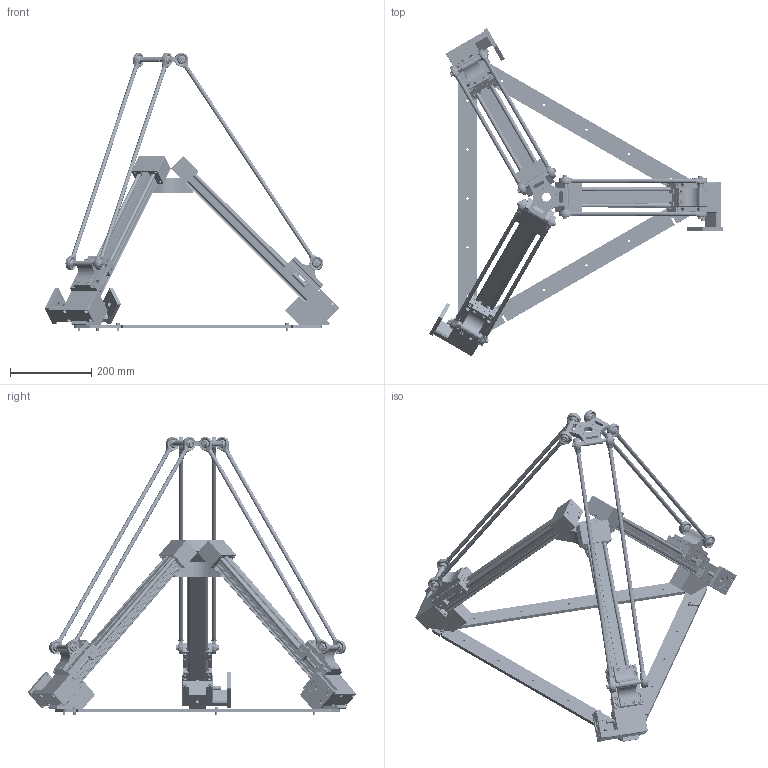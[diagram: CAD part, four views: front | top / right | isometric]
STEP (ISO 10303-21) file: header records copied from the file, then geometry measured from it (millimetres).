
FILE_DESCRIPTION(/* description */ (''),/* implementation_level */ '2;1');
FILE_NAME(/* name */ 'I:\Gleitlager\Konstruktion\SERIE NEU (im Aufbau!!)\drylin E\Deltaroboter\Modelle\DLE-DR-0054\DLE-DR-0054.stp',/* time_stamp */ '2019-07-29T15:02:43+02:00',/* author */ ('fkoeching'),/* organization */ (''),/* preprocessor_version */ 'ST-DEVELOPER v17',/* originating_system */ 'Autodesk Inventor 2018',/* authorisation */ '');
FILE_SCHEMA (('AUTOMOTIVE_DESIGN { 1 0 10303 214 3 1 1 }'));
Products named in the file (56): DLE-DR-0054; ETY-DR-0023; ETY-DR-0013; DLE-DR-ZLW-0005; ZSX-104001; ZTL-104002; SAXT-104001; ZTL-10400S-V; SAWT-104002; NOR-10412; ZR-104001; ZR-104001-XX; ZSY-104002; NOR-10703; ZTF-104004; SAXT-104004; SAXT-104002; NOR-10614; ZTF-10400S-V; SAWT-104001; ZTY-104035; NOR-20901; JTEM-10; ZTZ-104009; NOR-10604; ZSA-104001-AL; ZSY-104001; WJ200UMA-01-10-AL; WMA-01-10-AL; WRZ-011007; J200UMA-01-10; NOR-10601; MF-1040-NEMA23-S; zty104004; ZTY-104010; DIN 7984 M6 x 16; ETY-DR-0011; ZWY-104001; ETY-DR-0021; ETY-DR-0022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
Assembly tree (188 placements, depth 5):
  DLE-DR-0054
    ETY-DR-0023
    ETY-DR-0013  x3
    DLE-DR-ZLW-0005  x3
      ZSX-104001
      ZTL-104002
        SAXT-104001
        SAXT-104002
        NOR-10614  x2
        ZTL-10400S-V
          SAWT-104002
          NOR-10412  x4
          NOR-10604  x4
          JTEM-10  x4
          NOR-20901  x2
          ZTY-104035  x2
        ZTZ-104009  x2
      ZR-104001
        ZR-104001-XX
        NOR-10703  x2
        ZSY-104002  x2
      ZTF-104004
        SAXT-104004
        SAXT-104002
        NOR-10614  x2
        ZTF-10400S-V
          JTEM-10  x4
          SAWT-104001
          ZTY-104035  x2
          NOR-20901  x2
        ZTZ-104009  x2
        NOR-10604  x2
      ZSA-104001-AL
        ZSY-104001
        WJ200UMA-01-10-AL  x4
          WMA-01-10-AL
          WRZ-011007
          J200UMA-01-10
        NOR-10601  x4
      MF-1040-NEMA23-S
        zty104004
        ZTY-104010
        DIN 7984 M6 x 16  x2
    ETY-DR-0011
    ZWY-104001  x3
    ETY-DR-0021  x3
    ETY-DR-0022
    KDGM-DR-12-A-ER-J-600  x6
      RDGM-12X0.75-3000-ES
      /D/KARM-12-CL-KDGM
      ETY-DR-0024
    AK-DR-0007
      ETY-DR-0020  x12
      NOR-10737  x12
      NOR-10610  x3
      NOR-20602  x6
      NOR-10514  x3
      NOR-10629  x12
      NOR-10609  x12
      NOR-10628  x12
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Bounding box: 721.85 x 806.5 x 682.98 mm (x, y, z)
Volume: 4001287.1 mm3; surface area: 2120486.1 mm2
Topology: 341 solids, 341 shells, 13589 faces, 36197 edges, 23663 vertices
Faces by surface type: plane 6872, cylinder 3970, bspline 1152, cone 933, torus 452, sphere 210
Full cylindrical faces by diameter (mm): 2.5 x15, 3 x4, 3.2 x3, 3.242 x12, 3.5 x4, 4 x54, 4.134 x78, 4.5 x24, 4.917 x66, 5 x136, 5.3 x4, 5.4 x3, 5.5 x64, 6 x78, 6.2 x24, 6.6 x42, 6.647 x6, 7 x12, 7.2 x12, 8 x36, 8.5 x40, 9.43 x12, 9.5 x24, 9.8 x12, 10 x142, 10.2 x24, 11 x54, 12 x33, 14 x12, 15.12 x24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
Entity records: 86245 total; most frequent: CARTESIAN_POINT 23519, DIRECTION 12950, ORIENTED_EDGE 12436, EDGE_CURVE 6218, AXIS2_PLACEMENT_3D 4817, VERTEX_POINT 4135, LINE 3316, VECTOR 3316
